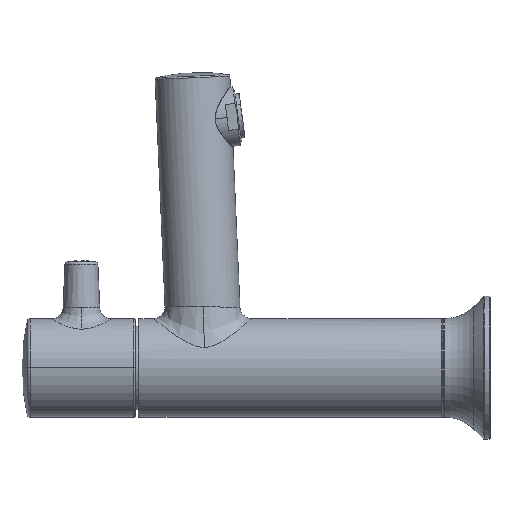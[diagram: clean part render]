
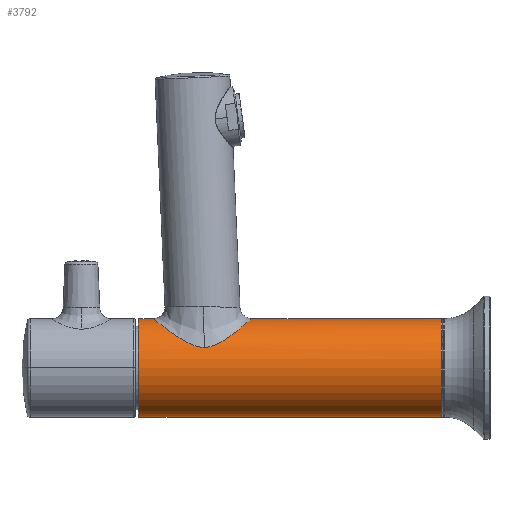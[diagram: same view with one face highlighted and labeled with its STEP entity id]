
A CAD part, left-side view. The second image highlights one B-rep face of the part: STEP entity #3792.
In plain terms, the highlighted cylindrical face has radius 16.5 mm (diameter 33 mm), a partial arc.
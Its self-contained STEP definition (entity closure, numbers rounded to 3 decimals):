
#1533=DIRECTION('',(0.,1.,0.));
#1534=VECTOR('',#1533,101.4);
#1535=CARTESIAN_POINT('',(0.,16.3,-16.5));
#1536=LINE('',#1535,#1534);
#1542=DIRECTION('',(0.,1.,0.));
#1543=VECTOR('',#1542,63.529);
#1544=CARTESIAN_POINT('',(0.,16.3,16.5));
#1545=LINE('',#1544,#1543);
#1571=DIRECTION('',(0.,1.,0.));
#1572=VECTOR('',#1571,4.739);
#1573=CARTESIAN_POINT('',(0.,112.961,16.5));
#1574=LINE('',#1573,#1572);
#1585=CARTESIAN_POINT('',(0.,117.7,0.));
#1586=DIRECTION('',(0.,-1.,0.));
#1587=DIRECTION('',(0.,0.,1.));
#1588=AXIS2_PLACEMENT_3D('',#1585,#1586,#1587);
#1590=CARTESIAN_POINT('',(-15.,95.8,6.874));
#1591=CARTESIAN_POINT('',(-15.,96.935,6.874));
#1592=CARTESIAN_POINT('',(-14.779,99.185,7.374));
#1593=CARTESIAN_POINT('',(-13.965,102.162,8.859));
#1594=CARTESIAN_POINT('',(-12.748,104.868,10.555));
#1595=CARTESIAN_POINT('',(-11.118,107.335,12.276));
#1596=CARTESIAN_POINT('',(-9.043,109.533,13.893));
#1597=CARTESIAN_POINT('',(-6.48,111.362,15.277));
#1598=CARTESIAN_POINT('',(-3.424,112.641,16.256));
#1599=CARTESIAN_POINT('',(-1.141,112.961,16.5));
#1600=CARTESIAN_POINT('',(0.,112.961,16.5));
#1602=CARTESIAN_POINT('',(0.,79.829,16.5));
#1603=CARTESIAN_POINT('',(-1.1,79.829,16.5));
#1604=CARTESIAN_POINT('',(-3.306,80.1,16.274));
#1605=CARTESIAN_POINT('',(-6.315,81.209,15.344));
#1606=CARTESIAN_POINT('',(-8.888,82.838,13.993));
#1607=CARTESIAN_POINT('',(-11.003,84.837,12.383));
#1608=CARTESIAN_POINT('',(-12.678,87.12,10.642));
#1609=CARTESIAN_POINT('',(-13.937,89.659,8.906));
#1610=CARTESIAN_POINT('',(-14.637,92.034,7.636));
#1611=CARTESIAN_POINT('',(-14.946,94.139,6.993));
#1612=CARTESIAN_POINT('',(-15.,95.247,6.874));
#1613=CARTESIAN_POINT('',(-15.,95.8,6.874));
#1615=CARTESIAN_POINT('',(0.,16.3,0.));
#1616=DIRECTION('',(0.,1.,0.));
#1617=DIRECTION('',(0.,0.,-1.));
#1618=AXIS2_PLACEMENT_3D('',#1615,#1616,#1617);
#3480=CARTESIAN_POINT('',(0.,117.7,-16.5));
#3481=CARTESIAN_POINT('',(0.,117.7,16.5));
#3482=VERTEX_POINT('',#3480);
#3483=VERTEX_POINT('',#3481);
#3488=CARTESIAN_POINT('',(0.,16.3,16.5));
#3489=CARTESIAN_POINT('',(0.,16.3,-16.5));
#3490=VERTEX_POINT('',#3488);
#3491=VERTEX_POINT('',#3489);
#3544=VERTEX_POINT('',#1602);
#3545=VERTEX_POINT('',#1613);
#3546=VERTEX_POINT('',#1600);
#3775=CARTESIAN_POINT('',(0.,7.175,0.));
#3776=DIRECTION('',(0.,1.,0.));
#3777=DIRECTION('',(0.,0.,-1.));
#3778=AXIS2_PLACEMENT_3D('',#3775,#3776,#3777);
#3779=CYLINDRICAL_SURFACE('',#3778,16.5);
#3780=ORIENTED_EDGE('',*,*,#3766,.F.);
#3781=ORIENTED_EDGE('',*,*,#3741,.F.);
#3783=ORIENTED_EDGE('',*,*,#3782,.F.);
#3785=ORIENTED_EDGE('',*,*,#3784,.F.);
#3786=ORIENTED_EDGE('',*,*,#3735,.F.);
#3788=ORIENTED_EDGE('',*,*,#3787,.F.);
#3789=ORIENTED_EDGE('',*,*,#3732,.T.);
#3790=EDGE_LOOP('',(#3780,#3781,#3783,#3785,#3786,#3788,#3789));
#3791=FACE_OUTER_BOUND('',#3790,.F.);
#3792=ADVANCED_FACE('',(#3791),#3779,.T.);
#1589=CIRCLE('',#1588,16.5);
#1601=B_SPLINE_CURVE_WITH_KNOTS('',3,(#1590,#1591,#1592,#1593,#1594,#1595,#1596,
#1597,#1598,#1599,#1600),.UNSPECIFIED.,.F.,.F.,(4,1,1,1,1,1,1,1,4),(0.,
0.125,0.25,0.375,0.5,0.625,0.75,0.875,1.),.UNSPECIFIED.);
#1614=B_SPLINE_CURVE_WITH_KNOTS('',3,(#1602,#1603,#1604,#1605,#1606,#1607,#1608,
#1609,#1610,#1611,#1612,#1613),.UNSPECIFIED.,.F.,.F.,(4,1,1,1,1,1,1,1,1,4),
(0.,0.125,0.25,0.375,0.5,0.625,0.75,0.875,0.938,1.),
.UNSPECIFIED.);
#1619=CIRCLE('',#1618,16.5);
#3732=EDGE_CURVE('',#3491,#3482,#1536,.T.);
#3735=EDGE_CURVE('',#3490,#3544,#1545,.T.);
#3741=EDGE_CURVE('',#3546,#3483,#1574,.T.);
#3766=EDGE_CURVE('',#3483,#3482,#1589,.T.);
#3782=EDGE_CURVE('',#3545,#3546,#1601,.T.);
#3784=EDGE_CURVE('',#3544,#3545,#1614,.T.);
#3787=EDGE_CURVE('',#3491,#3490,#1619,.T.);
